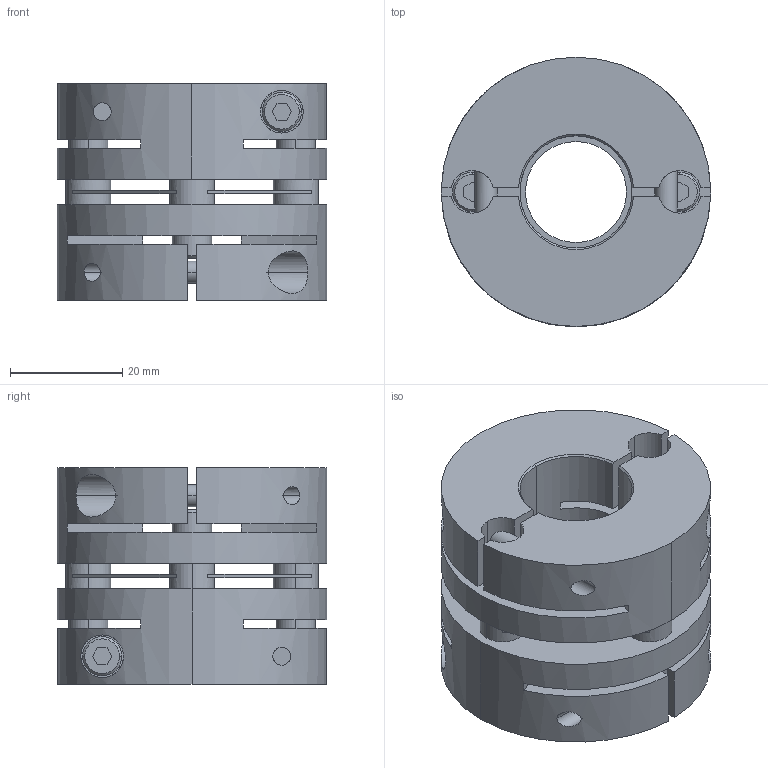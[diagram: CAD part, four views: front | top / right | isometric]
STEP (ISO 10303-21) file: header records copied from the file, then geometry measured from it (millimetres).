
FILE_DESCRIPTION((''),'2;1');
FILE_NAME('LAS-48C-20×20.stp','2011-08-09T17:07:11',(''),(''),'AutoCAD STEP 2000i','AutoCAD 2000i',', , ');
FILE_SCHEMA(('CONFIG_CONTROL_DESIGN'));
Length unit declared in the file: millimetre
Products named in the file (7): LAS-48C-19×19; 忣兜1; LA-4802-D19-1; LA-4802-D19; LA-4802-D12-1; LA-4802-D12; LAS48-ITA
Assembly tree (6 placements, depth 2):
  LAS-48C-19×19
    忣兜1
    LA-4802-D19-1
    LA-4802-D19
    LA-4802-D12-1
    LA-4802-D12
    LAS48-ITA
Bounding box: 48 x 48 x 38.6 mm (x, y, z)
Volume: 46034 mm3; surface area: 21654.7 mm2
Topology: 1 solids, 1 shells, 224 faces, 612 edges, 400 vertices
Faces by surface type: plane 112, cylinder 84, cone 28
Entity records: 8075 total; most frequent: CARTESIAN_POINT 2043, DIRECTION 1262, ORIENTED_EDGE 1224, EDGE_CURVE 612, AXIS2_PLACEMENT_3D 459, VERTEX_POINT 400, VECTOR 344, LINE 344
